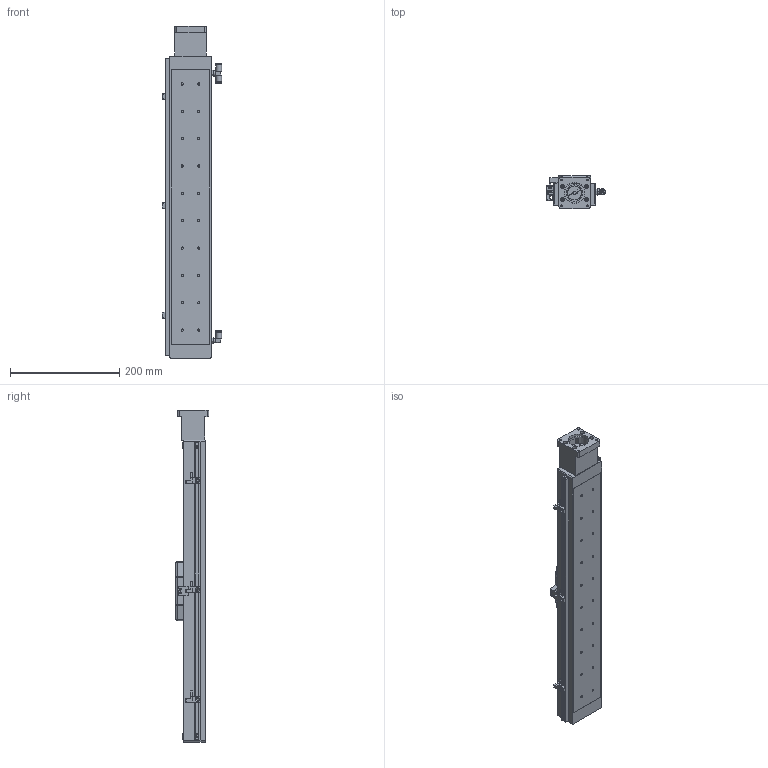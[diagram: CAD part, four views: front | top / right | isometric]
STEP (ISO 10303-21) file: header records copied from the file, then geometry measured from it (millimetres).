
FILE_DESCRIPTION((''),'2;1');
FILE_NAME('E:\catalogue and flyer\actuator catalogue 2015\dwg fr wg\UIA076CR9DC\UIA076CR9DC-stp file 05May16\UIA076CR9DC-400-R12_ _-M23-P13-C10-S.stp','2016-05-05T13:17:44',('h029'),(''),'Autodesk Inventor 11','Autodesk Inventor 11','');
FILE_SCHEMA(('AUTOMOTIVE_DESIGN { 1 0 10303 214 1 1 1 1 }'));
Length unit declared in the file: millimetre
Products named in the file (14): UIA076CR9DC-400; UIA076CR9DC-body; carriage-076CR; SOH25C; side 2; side 1; centre piece; 26-100 0071 sensor flag; GWL4-M5; GWT4-M5; 26-100 0110-M23; Sensor rail; Sensor Bracket ; Sensor
Assembly tree (17 placements, depth 3):
  UIA076CR9DC-400
    UIA076CR9DC-body
    carriage-076CR
    SOH25C
      side 2
      side 1
      centre piece
    26-100 0071 sensor flag
    GWL4-M5
    GWT4-M5
    26-100 0110-M23
    Sensor rail
    Sensor Bracket   x3
    Sensor  x3
Bounding box: 108.1 x 61 x 607 mm (x, y, z)
Volume: 1876212.7 mm3; surface area: 239241.5 mm2
Topology: 18 solids, 18 shells, 697 faces, 1794 edges, 1159 vertices
Faces by surface type: plane 355, bspline 164, cylinder 152, sphere 16, cone 10
Full cylindrical faces by diameter (mm): 2.459 x4, 2.5 x3, 8 x2, 25.5 x3, 30 x1, 37 x1, 38.1 x1
Entity records: 19737 total; most frequent: CARTESIAN_POINT 5735, DIRECTION 2781, ORIENTED_EDGE 2690, EDGE_CURVE 1345, AXIS2_PLACEMENT_3D 986, VERTEX_POINT 929, EDGE_LOOP 830, VECTOR 809
